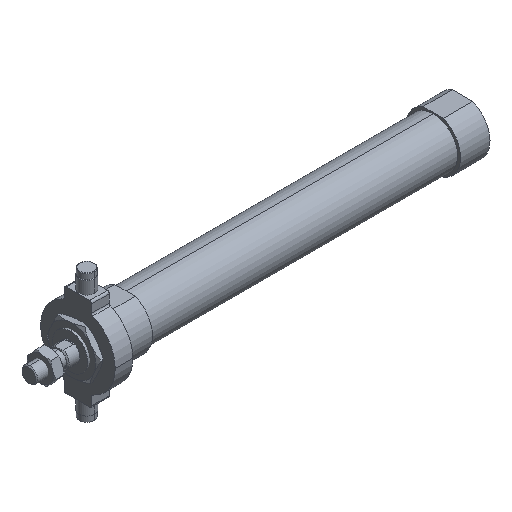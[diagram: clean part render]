
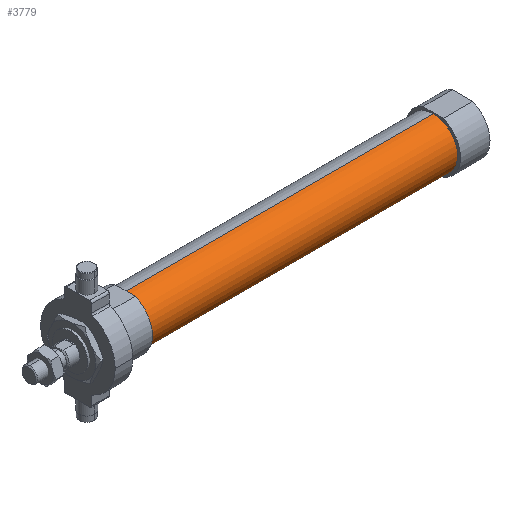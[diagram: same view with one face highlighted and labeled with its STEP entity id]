
A CAD part, isometric view. The second image highlights one B-rep face of the part: STEP entity #3779.
In plain terms, the highlighted cylindrical face has radius 12.5 mm (diameter 25 mm), a partial arc.
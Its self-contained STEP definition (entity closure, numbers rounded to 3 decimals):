
#43 = CARTESIAN_POINT ( 'NONE',  ( -6.469, 0., 0. ) ) ;
#158 = DIRECTION ( 'NONE',  ( -1., 0., 0. ) ) ;
#236 = CIRCLE ( 'NONE', #3598, 12.5 ) ;
#450 = CARTESIAN_POINT ( 'NONE',  ( -6.469, 0., -12.5 ) ) ;
#474 = EDGE_LOOP ( 'NONE', ( #3710, #1842, #4054, #3608 ) ) ;
#502 = DIRECTION ( 'NONE',  ( 0., 0., 1. ) ) ;
#509 = EDGE_CURVE ( 'NONE', #4047, #3303, #3799, .T. ) ;
#593 = VECTOR ( 'NONE', #158, 1000. ) ;
#620 = CARTESIAN_POINT ( 'NONE',  ( 206., 0., 0. ) ) ;
#669 = CARTESIAN_POINT ( 'NONE',  ( -6.469, 0., 12.5 ) ) ;
#765 = AXIS2_PLACEMENT_3D ( 'NONE', #43, #2719, #4069 ) ;
#809 = CARTESIAN_POINT ( 'NONE',  ( 49., 0., 12.5 ) ) ;
#938 = DIRECTION ( 'NONE',  ( -1., 0., 0. ) ) ;
#962 = DIRECTION ( 'NONE',  ( -1., 0., 0. ) ) ;
#1839 = VERTEX_POINT ( 'NONE', #2519 ) ;
#1842 = ORIENTED_EDGE ( 'NONE', *, *, #4115, .T. ) ;
#1854 = CARTESIAN_POINT ( 'NONE',  ( 49., 0., 0. ) ) ;
#1897 = LINE ( 'NONE', #450, #593 ) ;
#1994 = FACE_OUTER_BOUND ( 'NONE', #474, .T. ) ;
#2415 = CIRCLE ( 'NONE', #2588, 12.5 ) ;
#2518 = DIRECTION ( 'NONE',  ( -1., 0., 0. ) ) ;
#2519 = CARTESIAN_POINT ( 'NONE',  ( 49., 0., -12.5 ) ) ;
#2588 = AXIS2_PLACEMENT_3D ( 'NONE', #1854, #2518, #502 ) ;
#2719 = DIRECTION ( 'NONE',  ( -1., 0., 0. ) ) ;
#2783 = CYLINDRICAL_SURFACE ( 'NONE', #765, 12.5 ) ;
#2920 = CARTESIAN_POINT ( 'NONE',  ( 206., 0., 12.5 ) ) ;
#3273 = EDGE_CURVE ( 'NONE', #1839, #3303, #2415, .T. ) ;
#3295 = DIRECTION ( 'NONE',  ( 0., 0., 1. ) ) ;
#3303 = VERTEX_POINT ( 'NONE', #809 ) ;
#3434 = VECTOR ( 'NONE', #962, 1000. ) ;
#3598 = AXIS2_PLACEMENT_3D ( 'NONE', #620, #938, #3295 ) ;
#3608 = ORIENTED_EDGE ( 'NONE', *, *, #3273, .F. ) ;
#3710 = ORIENTED_EDGE ( 'NONE', *, *, #3882, .F. ) ;
#3724 = CARTESIAN_POINT ( 'NONE',  ( 206., 0., -12.5 ) ) ;
#3779 = ADVANCED_FACE ( 'NONE', ( #1994 ), #2783, .T. ) ;
#3799 = LINE ( 'NONE', #669, #3434 ) ;
#3809 = VERTEX_POINT ( 'NONE', #3724 ) ;
#3882 = EDGE_CURVE ( 'NONE', #3809, #1839, #1897, .T. ) ;
#4047 = VERTEX_POINT ( 'NONE', #2920 ) ;
#4054 = ORIENTED_EDGE ( 'NONE', *, *, #509, .T. ) ;
#4069 = DIRECTION ( 'NONE',  ( 0., 0., 1. ) ) ;
#4115 = EDGE_CURVE ( 'NONE', #3809, #4047, #236, .T. ) ;
